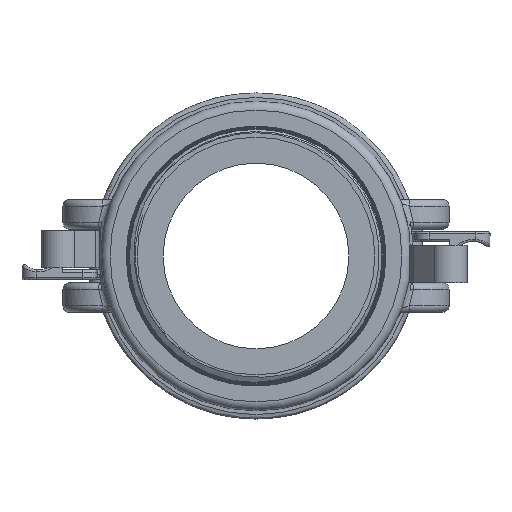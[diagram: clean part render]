
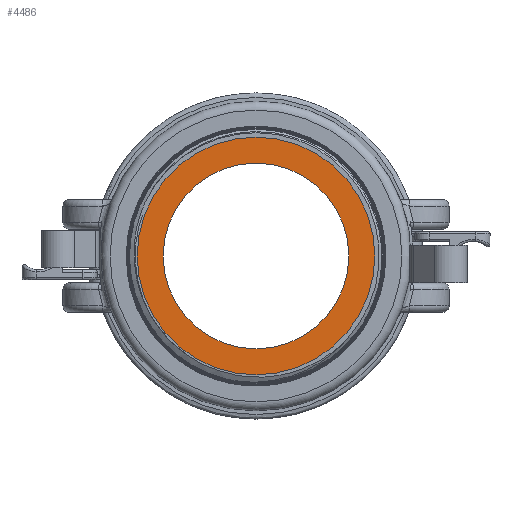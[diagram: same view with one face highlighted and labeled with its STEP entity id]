
A CAD part, left-side view. The second image highlights one B-rep face of the part: STEP entity #4486.
In plain terms, the highlighted planar face has unit normal (-1, 0, 0).
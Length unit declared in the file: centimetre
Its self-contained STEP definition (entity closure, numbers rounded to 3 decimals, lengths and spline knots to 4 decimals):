
#802=PLANE('',#4778);
#1528=VERTEX_POINT('',#6640);
#1630=VERTEX_POINT('',#9552);
#1879=CIRCLE('',#4637,3.175);
#1930=CIRCLE('',#4739,4.064);
#2117=EDGE_CURVE('',#1528,#1528,#1879,.T.);
#2280=EDGE_CURVE('',#1630,#1630,#1930,.T.);
#3251=ORIENTED_EDGE('',*,*,#2117,.T.);
#3252=ORIENTED_EDGE('',*,*,#2280,.T.);
#3953=EDGE_LOOP('',(#3251));
#3954=EDGE_LOOP('',(#3252));
#4231=FACE_BOUND('',#3953,.T.);
#4232=FACE_BOUND('',#3954,.T.);
#4486=ADVANCED_FACE('',(#4231,#4232),#802,.F.);
#4637=AXIS2_PLACEMENT_3D('',#6639,#5105,#5106);
#4739=AXIS2_PLACEMENT_3D('',#9551,#5320,#5321);
#4778=AXIS2_PLACEMENT_3D('',#34282,#5431,$);
#5105=DIRECTION('',(1.,0.,0.));
#5106=DIRECTION('',(0.,0.,3.175));
#5320=DIRECTION('',(-1.,0.,0.));
#5321=DIRECTION('',(0.,4.064,0.));
#5431=DIRECTION('',(1.,0.,0.));
#6639=CARTESIAN_POINT('',(-10.6933,0.,0.));
#6640=CARTESIAN_POINT('',(-10.6933,0.,-3.175));
#9551=CARTESIAN_POINT('',(-10.6933,0.,0.));
#9552=CARTESIAN_POINT('',(-10.6933,-4.064,0.));
#34282=CARTESIAN_POINT('',(-10.6933,0.,0.));
